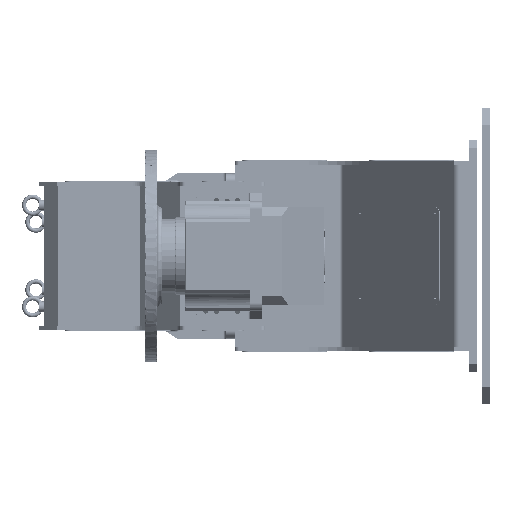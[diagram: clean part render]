
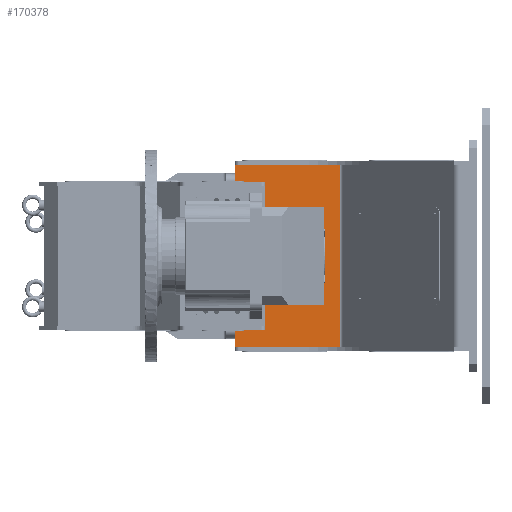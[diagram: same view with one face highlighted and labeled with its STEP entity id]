
A CAD part, front view. The second image highlights one B-rep face of the part: STEP entity #170378.
In plain terms, the highlighted planar face has unit normal (0, -1, 0).
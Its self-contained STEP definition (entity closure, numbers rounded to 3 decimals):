
#170370=AXIS2_PLACEMENT_3D('Plane Axis2P3D',#170367,#170368,#170369) ;
#169884=CARTESIAN_POINT('Vertex',(-586.,-319.348,127.)) ;
#169887=CARTESIAN_POINT('Line Origine',(-462.273,-319.348,127.)) ;
#169891=CARTESIAN_POINT('Vertex',(-338.546,-319.348,127.)) ;
#169923=CARTESIAN_POINT('Line Origine',(-338.546,-319.348,-88.)) ;
#169927=CARTESIAN_POINT('Vertex',(-338.546,-319.348,-303.)) ;
#169962=CARTESIAN_POINT('Line Origine',(-462.273,-319.348,-303.)) ;
#169966=CARTESIAN_POINT('Vertex',(-586.,-319.348,-303.)) ;
#170354=CARTESIAN_POINT('Line Origine',(-586.,-319.348,-88.)) ;
#170367=CARTESIAN_POINT('Axis2P3D Location',(-611.,-319.348,127.)) ;
#169888=DIRECTION('Vector Direction',(1.,0.,0.)) ;
#169924=DIRECTION('Vector Direction',(0.,0.,-1.)) ;
#169963=DIRECTION('Vector Direction',(1.,0.,0.)) ;
#170355=DIRECTION('Vector Direction',(0.,0.,-1.)) ;
#170368=DIRECTION('Axis2P3D Direction',(0.,1.,0.)) ;
#170369=DIRECTION('Axis2P3D XDirection',(1.,0.,0.)) ;
#169889=VECTOR('Line Direction',#169888,1.) ;
#169925=VECTOR('Line Direction',#169924,1.) ;
#169964=VECTOR('Line Direction',#169963,1.) ;
#170356=VECTOR('Line Direction',#170355,1.) ;
#170373=ORIENTED_EDGE('',*,*,#169968,.T.) ;
#170374=ORIENTED_EDGE('',*,*,#169929,.T.) ;
#170375=ORIENTED_EDGE('',*,*,#169893,.F.) ;
#170376=ORIENTED_EDGE('',*,*,#170358,.T.) ;
#170378=ADVANCED_FACE('\X2\96F64EF651E04F554F53\X0\',(#170377),#170371,.F.) ;
#169893=EDGE_CURVE('',#169885,#169892,#169890,.T.) ;
#169929=EDGE_CURVE('',#169928,#169892,#169926,.F.) ;
#169968=EDGE_CURVE('',#169967,#169928,#169965,.T.) ;
#170358=EDGE_CURVE('',#169885,#169967,#170357,.T.) ;
#170372=EDGE_LOOP('',(#170373,#170374,#170375,#170376)) ;
#170377=FACE_OUTER_BOUND('',#170372,.T.) ;
#169890=LINE('Line',#169887,#169889) ;
#169926=LINE('Line',#169923,#169925) ;
#169965=LINE('Line',#169962,#169964) ;
#170357=LINE('Line',#170354,#170356) ;
#170371=PLANE('',#170370) ;
#169885=VERTEX_POINT('',#169884) ;
#169892=VERTEX_POINT('',#169891) ;
#169928=VERTEX_POINT('',#169927) ;
#169967=VERTEX_POINT('',#169966) ;
